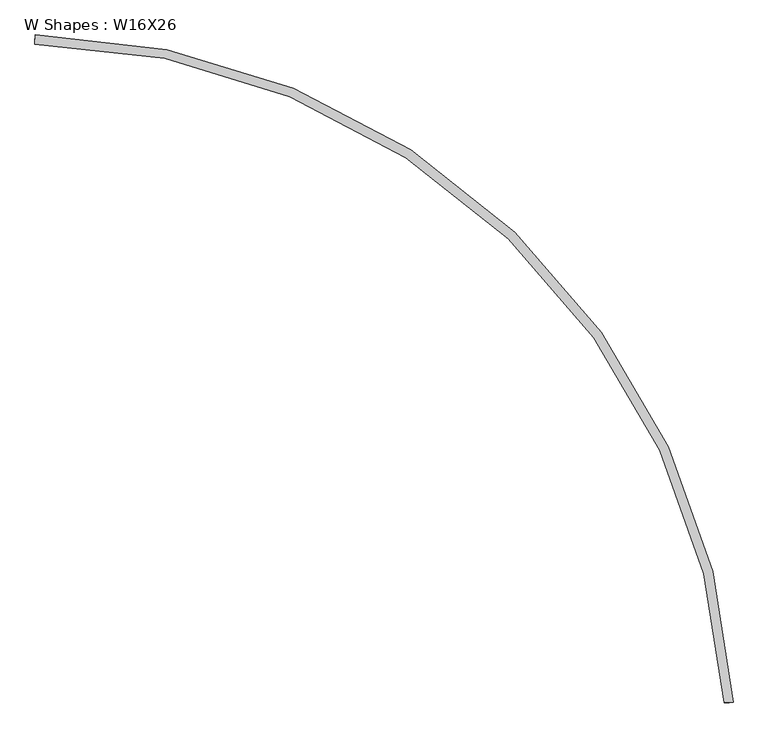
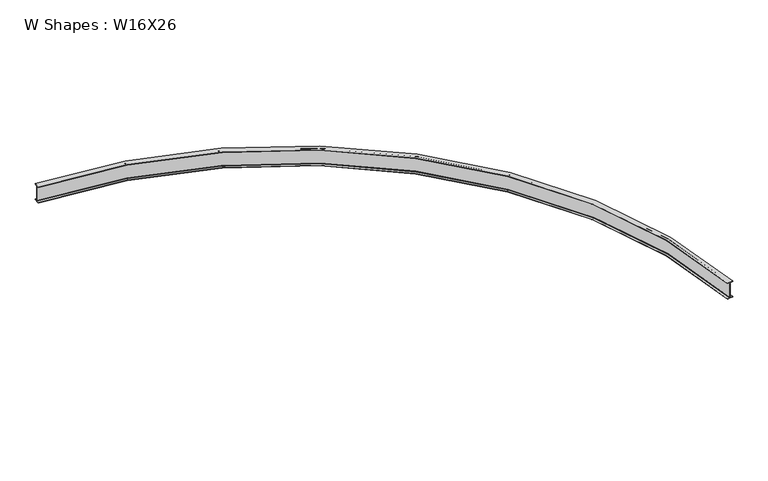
"""IFC4 building model written with IfcOpenShell, lengths in millimetres: beam geometry, W Shapes : W16X26."""

from ifc_helpers import new_model, si_unit, point, frame, origin, place, context, project, spatial, polyline, circle_curve, ellipse_curve, trimmed, source, transform, mapped, element, save
from ifc_brep_helpers import plane_surface, cylinder_surface, revolved_surface, advanced_brep


def w_shapes_w16x26_8057c508(model_context):
    return source(origin(), model_context, "Body", "AdvancedBrep", [
        advanced_brep(
        [(10900.3353789, -10168.7475051, -190.627), (10843.9817352, -10172.2791801, -190.627), (10833.7909279, -10172.9178365, -180.4162), (10833.7909279, -10172.9178365, 180.4162), (10843.9817352, -10172.2791801, 190.627), (10900.3353789, -10168.7475051, 190.627), (10900.3353789, -10168.7475051, 199.39), (10760.9089101, -10177.4853424, 199.39), (10760.9089101, -10177.4853424, 190.627), (10817.2625537, -10173.9536674, 190.627), (10827.4533611, -10173.315011, 180.4162), (10827.4533611, -10173.315011, -180.4162), (10817.2625537, -10173.9536674, -190.627), (10760.9089101, -10177.4853424, -190.627), (10760.9089101, -10177.4853424, -199.39), (10900.3353789, -10168.7475051, -199.39), (193.4708242, 68.1362637, -190.627), (193.4708242, 68.1362637, -199.39), (190.996134, -71.5418159, -199.39), (190.996134, -71.5418159, -190.627), (191.9963588, -15.0864757, -190.627), (192.1772362, -4.8772779, -180.4162), (192.1772362, -4.8772779, 180.4162), (191.9963588, -15.0864757, 190.627), (190.996134, -71.5418159, 190.627), (190.996134, -71.5418159, 199.39), (193.4708242, 68.1362637, 199.39), (193.4708242, 68.1362637, 190.627), (192.4705994, 11.6809235, 190.627), (192.2897221, 1.4717257, 180.4162), (192.2897221, 1.4717257, -180.4162), (192.4705994, 11.6809235, -190.627)],
        [
            (0, 1),
            (1, 2, circle_curve(frame((10843.9817352, -10172.2791801, -180.4162), z_axis=(-0.06254715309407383, 0.9980420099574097, 0.0), x_axis=(-0.9980420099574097, -0.06254715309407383, 0.0)), 10.2108)),
            (2, 3),
            (3, 4, circle_curve(frame((10843.9817352, -10172.2791801, 180.4162), z_axis=(-0.06254715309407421, 0.9980420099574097, 0.0), x_axis=(-0.9980420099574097, -0.06254715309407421, 0.0)), 10.2108)),
            (4, 5),
            (5, 6),
            (6, 7),
            (7, 8),
            (8, 9),
            (9, 10, circle_curve(frame((10817.2625537, -10173.9536674, 180.4162), z_axis=(-0.06254715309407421, 0.9980420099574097, 0.0), x_axis=(-0.9980420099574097, -0.06254715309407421, 0.0)), 10.2108)),
            (10, 11),
            (11, 12, circle_curve(frame((10817.2625537, -10173.9536674, -180.4162), z_axis=(-0.06254715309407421, 0.9980420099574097, 0.0), x_axis=(-0.9980420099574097, -0.06254715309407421, 0.0)), 10.2108)),
            (12, 13),
            (13, 14),
            (14, 15),
            (15, 0),
            (16, 17),
            (17, 18),
            (18, 19),
            (19, 20),
            (20, 21, circle_curve(frame((191.9963588, -15.0864757, -180.4162), z_axis=(0.9998430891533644, -0.017714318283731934, 0.0), x_axis=(-0.017714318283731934, -0.9998430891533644, 0.0)), 10.2108)),
            (21, 22),
            (22, 23, circle_curve(frame((191.9963588, -15.0864757, 180.4162), z_axis=(0.9998430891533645, -0.017714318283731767, 0.0), x_axis=(-0.017714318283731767, -0.9998430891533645, 0.0)), 10.2108)),
            (23, 24),
            (24, 25),
            (25, 26),
            (26, 27),
            (27, 28),
            (28, 29, circle_curve(frame((192.4705994, 11.6809235, 180.4162), z_axis=(0.9998430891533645, -0.017714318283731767, 0.0), x_axis=(-0.017714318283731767, -0.9998430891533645, 0.0)), 10.2108)),
            (29, 30),
            (30, 31, circle_curve(frame((192.4705994, 11.6809235, -180.4162), z_axis=(0.9998430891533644, -0.017714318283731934, 0.0), x_axis=(-0.017714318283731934, -0.9998430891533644, 0.0)), 10.2108)),
            (31, 16),
            (0, 16, circle_curve(frame((0.0, -10851.8699979, -190.627), z_axis=(0.0, 0.0, 1.0), x_axis=(-0.7227923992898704, 0.691065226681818, 0.0)), 10921.7199979)),
            (31, 1, circle_curve(frame((0.0, -10851.8699979, -190.627), z_axis=(0.0, 0.0, -1.0), x_axis=(-0.7227923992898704, 0.691065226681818, 0.0)), 10865.2557979)),
            (30, 2, circle_curve(frame((0.0, -10851.8699979, -180.4162), z_axis=(0.0, 0.0, -1.0), x_axis=(-0.7227923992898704, 0.691065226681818, 0.0)), 10855.0449979)),
            (29, 3, circle_curve(frame((0.0, -10851.8699979, 180.4162), z_axis=(0.0, 0.0, -1.0), x_axis=(-0.7227923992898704, 0.691065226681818, 0.0)), 10855.0449979)),
            (28, 4, circle_curve(frame((0.0, -10851.8699979, 190.627), z_axis=(0.0, 0.0, -1.0), x_axis=(-0.7227923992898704, 0.691065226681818, 0.0)), 10865.2557979)),
            (27, 5, circle_curve(frame((0.0, -10851.8699979, 190.627), z_axis=(0.0, 0.0, -1.0), x_axis=(-0.7227923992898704, 0.691065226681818, 0.0)), 10921.7199979)),
            (26, 6, circle_curve(frame((0.0, -10851.8699979, 199.39), z_axis=(0.0, 0.0, -1.0), x_axis=(-0.7227923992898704, 0.691065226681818, 0.0)), 10921.7199979)),
            (25, 7, circle_curve(frame((0.0, -10851.8699979, 199.39), z_axis=(0.0, 0.0, -1.0), x_axis=(-0.7227923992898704, 0.691065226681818, 0.0)), 10782.0199979)),
            (24, 8, circle_curve(frame((0.0, -10851.8699979, 190.627), z_axis=(0.0, 0.0, -1.0), x_axis=(-0.7227923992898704, 0.691065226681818, 0.0)), 10782.0199979)),
            (23, 9, circle_curve(frame((0.0, -10851.8699979, 190.627), z_axis=(0.0, 0.0, -1.0), x_axis=(-0.7227923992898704, 0.691065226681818, 0.0)), 10838.4841979)),
            (22, 10, circle_curve(frame((0.0, -10851.8699979, 180.4162), z_axis=(0.0, 0.0, -1.0), x_axis=(-0.7227923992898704, 0.691065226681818, 0.0)), 10848.6949979)),
            (21, 11, circle_curve(frame((0.0, -10851.8699979, -180.4162), z_axis=(0.0, 0.0, -1.0), x_axis=(-0.7227923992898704, 0.691065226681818, 0.0)), 10848.6949979)),
            (20, 12, circle_curve(frame((0.0, -10851.8699979, -190.627), z_axis=(0.0, 0.0, -1.0), x_axis=(-0.7227923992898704, 0.691065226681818, 0.0)), 10838.4841979)),
            (19, 13, circle_curve(frame((0.0, -10851.8699979, -190.627), z_axis=(0.0, 0.0, -1.0), x_axis=(-0.7227923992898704, 0.691065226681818, 0.0)), 10782.0199979)),
            (18, 14, circle_curve(frame((0.0, -10851.8699979, -199.39), z_axis=(0.0, 0.0, -1.0), x_axis=(-0.7227923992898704, 0.691065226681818, 0.0)), 10782.0199979)),
            (17, 15, circle_curve(frame((0.0, -10851.8699979, -199.39), z_axis=(0.0, 0.0, -1.0), x_axis=(-0.7227923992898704, 0.691065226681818, 0.0)), 10921.7199979)),
        ],
        [
            plane_surface(frame((10830.6221445, -10173.1164238, 0.0), z_axis=(0.0625471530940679, -0.9980420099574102, 0.0), x_axis=(0.0, 0.0, 1.0))),
            plane_surface(frame((192.2334791, -1.7027761, 0.0), z_axis=(-0.9998430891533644, 0.017714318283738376, 0.0), x_axis=(0.0, 0.0, 1.0))),
            plane_surface(frame((0.0, -10851.8699979, -190.627), z_axis=(0.0, 0.0, 1.0), x_axis=(-0.7227923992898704, 0.691065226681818, 0.0))),
            revolved_surface(trimmed(ellipse_curve(frame((-7853.324307, -3343.269537, -180.4162), z_axis=(0.6910652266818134, 0.7227923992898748, 0.0), x_axis=(0.7227923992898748, -0.6910652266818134, 0.0)), 10.2108, 10.2108), [point((-7845.9440184, -3350.3258658, -180.4162))], [point((-7853.324307, -3343.269537, -190.627))], True, "CARTESIAN"), (0.0, -10851.8699979, 0.0), (0.0, 0.0, -1.0)),
            cylinder_surface(frame((0.0, -10851.8699979, 0.0), z_axis=(0.0, 0.0, -1.0), x_axis=(-0.7227923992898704, 0.691065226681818, 0.0)), 10855.0449979),
            revolved_surface(trimmed(ellipse_curve(frame((-7853.324307, -3343.269537, 180.4162), z_axis=(0.6910652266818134, 0.7227923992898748, 0.0), x_axis=(0.7227923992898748, -0.6910652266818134, 0.0)), 10.2108, 10.2108), [point((-7853.324307, -3343.269537, 190.627))], [point((-7845.9440184, -3350.3258658, 180.4162))], True, "CARTESIAN"), (0.0, -10851.8699979, 0.0), (0.0, 0.0, -1.0)),
            plane_surface(frame((0.0, -10851.8699979, 190.627), z_axis=(0.0, 0.0, -1.0), x_axis=(-0.7227923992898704, 0.691065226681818, 0.0))),
            cylinder_surface(frame((0.0, -10851.8699979, 0.0), z_axis=(0.0, 0.0, -1.0), x_axis=(-0.7227923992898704, 0.691065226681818, 0.0)), 10921.7199979),
            plane_surface(frame((0.0, -10851.8699979, 199.39), z_axis=(0.0, 0.0, 1.0), x_axis=(-0.7227923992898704, 0.691065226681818, 0.0))),
            revolved_surface(polyline([(-7793.162103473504, -3400.7909039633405, 190.627), (-7793.162103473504, -3400.7909039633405, 199.39)]), (0.0, -10851.8699979, 0.0), (0.0, 0.0, -1.0)),
            revolved_surface(trimmed(ellipse_curve(frame((-7833.973998, -3361.7704588, 180.4162), z_axis=(0.6910652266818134, 0.7227923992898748, 0.0), x_axis=(0.7227923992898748, -0.6910652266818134, 0.0)), 10.2108, 10.2108), [point((-7841.3542867, -3354.71413, 180.4162))], [point((-7833.973998, -3361.7704588, 190.627))], True, "CARTESIAN"), (0.0, -10851.8699979, 0.0), (0.0, 0.0, -1.0)),
            revolved_surface(polyline([(-7841.354286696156, -3354.7141299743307, -180.4162), (-7841.354286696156, -3354.7141299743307, 180.4162)]), (0.0, -10851.8699979, 0.0), (0.0, 0.0, -1.0)),
            revolved_surface(trimmed(ellipse_curve(frame((-7833.973998, -3361.7704588, -180.4162), z_axis=(0.6910652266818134, 0.7227923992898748, 0.0), x_axis=(0.7227923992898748, -0.6910652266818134, 0.0)), 10.2108, 10.2108), [point((-7833.973998, -3361.7704588, -190.627))], [point((-7841.3542867, -3354.71413, -180.4162))], True, "CARTESIAN"), (0.0, -10851.8699979, 0.0), (0.0, 0.0, -1.0)),
            revolved_surface(polyline([(-7793.162103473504, -3400.7909039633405, -199.39), (-7793.162103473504, -3400.7909039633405, -190.627)]), (0.0, -10851.8699979, 0.0), (0.0, 0.0, -1.0)),
            plane_surface(frame((0.0, -10851.8699979, -199.39), z_axis=(0.0, 0.0, -1.0), x_axis=(-0.7227923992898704, 0.691065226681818, 0.0))),
        ],
        [
            (0, [[1, 2, 3, 4, 5, 6, 7, 8, 9, 10, 11, 12, 13, 14, 15, 16]]),
            (1, [[17, 18, 19, 20, 21, 22, 23, 24, 25, 26, 27, 28, 29, 30, 31, 32]]),
            (2, [[-1, 33, -32, 34]]),
            (3, [[-2, -34, -31, 35]]),
            (4, [[-3, -35, -30, 36]]),
            (5, [[-4, -36, -29, 37]]),
            (6, [[-5, -37, -28, 38]]),
            (7, [[-6, -38, -27, 39]]),
            (8, [[-7, -39, -26, 40]]),
            (9, [[-8, -40, -25, 41]]),
            (6, [[-9, -41, -24, 42]]),
            (10, [[-10, -42, -23, 43]]),
            (11, [[-11, -43, -22, 44]]),
            (12, [[-12, -44, -21, 45]]),
            (2, [[-13, -45, -20, 46]]),
            (13, [[-14, -46, -19, 47]]),
            (14, [[-15, -47, -18, 48]]),
            (7, [[-16, -48, -17, -33]]),
        ],
    ),
    ])


if __name__ == "__main__":
    model = new_model("IFC4")
    model_context = context("Model", 3, world=origin())
    ifc_project = project(units=[si_unit("LENGTHUNIT", "METRE", prefix="MILLI")], contexts=[model_context])
    site = spatial("IfcSite", under=ifc_project)
    building = spatial("IfcBuilding", under=site)
    placement = place(None, origin())
    w_shapes_w16x26_shape = w_shapes_w16x26_8057c508(model_context)
    element("IfcBeam", 1, ObjectType="W Shapes : W16X26", at=placement, inside=building, context=model_context, shape_type="MappedRepresentation", body=[
        mapped(w_shapes_w16x26_shape, transform((0.0, 0.0, 0.0), x_axis=(1.0, 0.0, 0.0), y_axis=(0.0, 1.0, 0.0), z_axis=(0.0, 0.0, 1.0))),
    ])
    save(model, "model.ifc")
